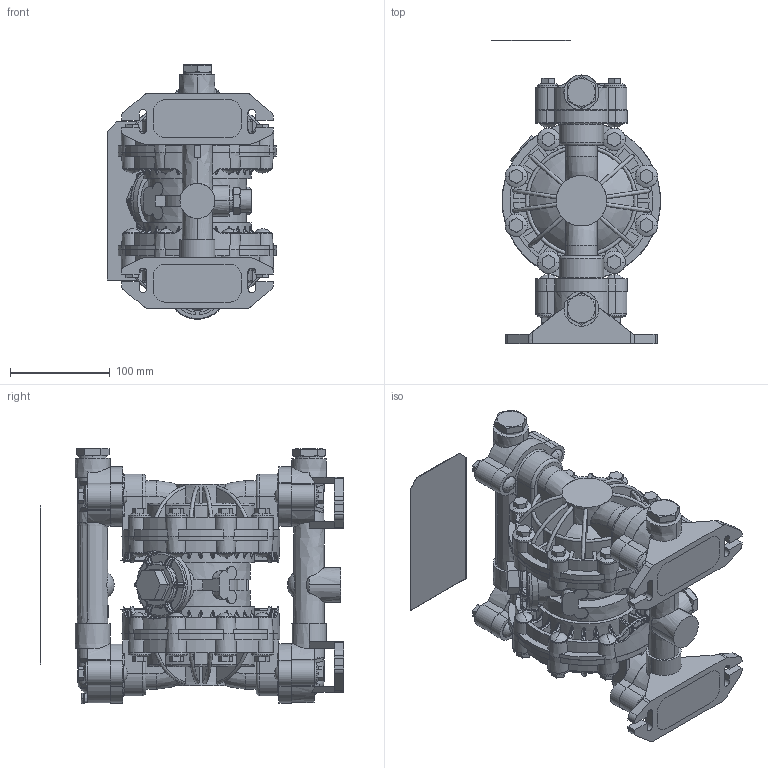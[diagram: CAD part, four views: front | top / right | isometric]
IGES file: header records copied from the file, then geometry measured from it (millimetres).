
Start section:  PTC IGES file: 24n093-en-c.igs
Global section: file name: 24n093-en-c.igs; native system: Creo Parametric by PTC Inc.; preprocessor: 2019030; author: qusrh3; organization: Unknown; date: 20191231.173234; units: inch
Bounding box: 170.01 x 304.8 x 256.86 mm (x, y, z)
Surface area: 591158.7 mm2 (no closed solid volume)
Topology: 0 solids, 0 shells, 2759 faces, 15236 edges, 15188 vertices
Faces by surface type: bspline 1436, revolution 1297, extrusion 26
